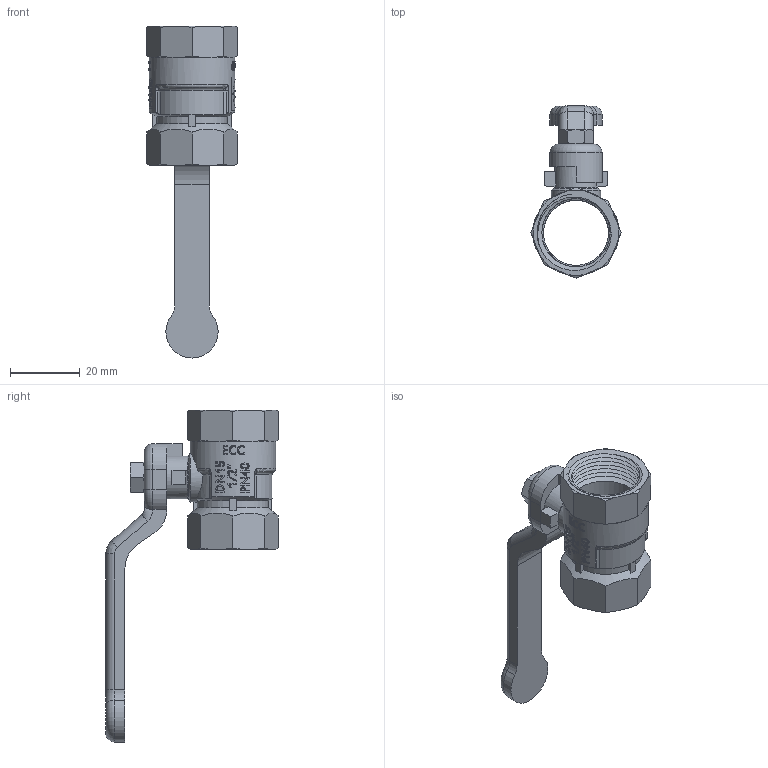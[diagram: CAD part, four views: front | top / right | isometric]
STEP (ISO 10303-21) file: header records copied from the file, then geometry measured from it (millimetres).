
FILE_DESCRIPTION(/* description */ (''),/* implementation_level */ '2;1');
FILE_NAME(/* name */ 'H:\Мишенин_3D\Исходные файлы 3D\VT.090.N.04.stp',/* time_stamp */ '2018-01-17T10:13:05+03:00',/* author */ ('MisheninAL'),/* organization */ (''),/* preprocessor_version */ 'ST-DEVELOPER v16.13',/* originating_system */ 'Autodesk Inventor 2018',/* authorisation */ '');
FILE_SCHEMA (('AUTOMOTIVE_DESIGN { 1 0 10303 214 3 1 1 }'));
Length unit declared in the file: millimetre
Products named in the file (1): VT.090_ВB_1%2
Bounding box: 25.98 x 49.49 x 95.3 mm (x, y, z)
Volume: 13058.6 mm3; surface area: 10974.3 mm2
Topology: 1 solids, 1 shells, 436 faces, 1157 edges, 755 vertices
Faces by surface type: plane 185, bspline 117, cylinder 68, cone 47, torus 15, sphere 4
Full cylindrical faces by diameter (mm): 4.62 x1, 12.276 x1, 14.276 x1, 18.7 x4, 24.5 x1
Entity records: 20165 total; most frequent: CARTESIAN_POINT 10329, ORIENTED_EDGE 2264, DIRECTION 1713, EDGE_CURVE 1132, VERTEX_POINT 741, AXIS2_PLACEMENT_3D 601, LINE 511, VECTOR 511
